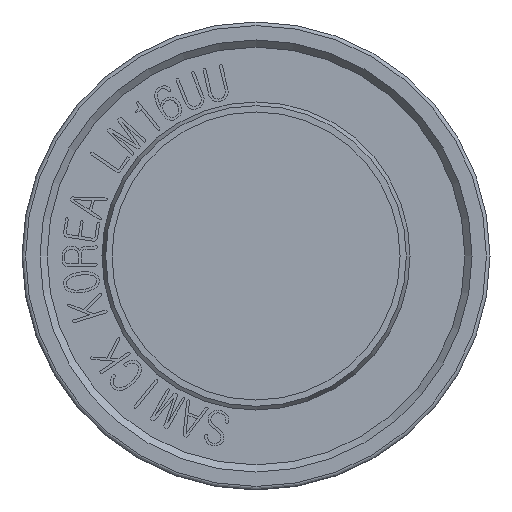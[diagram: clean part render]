
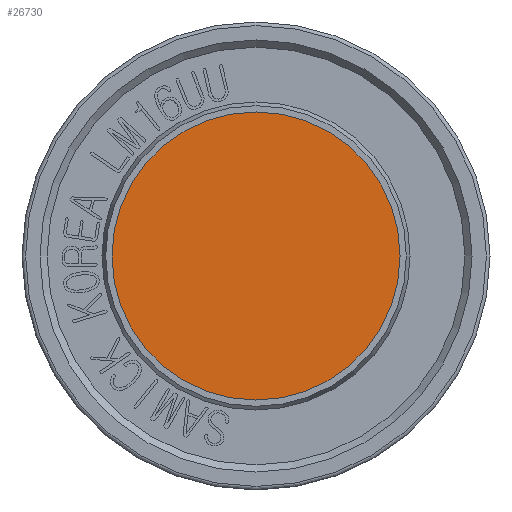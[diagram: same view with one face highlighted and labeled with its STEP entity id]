
A CAD part, front view. The second image highlights one B-rep face of the part: STEP entity #26730.
In plain terms, the highlighted planar face has unit normal (0, -1, 0).
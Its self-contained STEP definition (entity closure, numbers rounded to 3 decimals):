
#26699=CARTESIAN_POINT('',(-8.0,-60.0,0.));
#26700=VERTEX_POINT('',#26699);
#26701=CARTESIAN_POINT('',(0.0,-60.0,0.0));
#26702=DIRECTION('',(0.0,1.0,0.0));
#26703=DIRECTION('',(1.0,0.0,0.0));
#26704=AXIS2_PLACEMENT_3D('',#26701,#26702,#26703);
#26705=CIRCLE('',#26704,8.0);
#26706=EDGE_CURVE('',#26700,#26700,#26705,.T.);
#26722=CARTESIAN_POINT('',(0.0,-60.0,0.0));
#26723=DIRECTION('',(0.0,-1.0,0.0));
#26724=DIRECTION('',(0.0,0.0,-1.0));
#26725=AXIS2_PLACEMENT_3D('',#26722,#26723,#26724);
#26726=PLANE('',#26725);
#26727=ORIENTED_EDGE('',*,*,#26706,.F.);
#26728=EDGE_LOOP('',(#26727));
#26729=FACE_OUTER_BOUND('',#26728,.T.);
#26730=ADVANCED_FACE('',(#26729),#26726,.T.);
